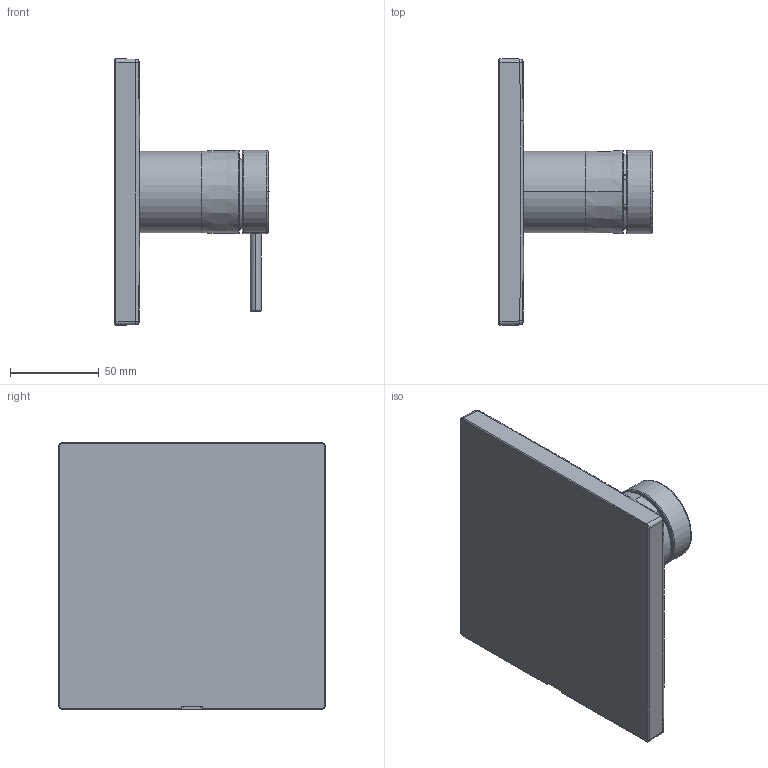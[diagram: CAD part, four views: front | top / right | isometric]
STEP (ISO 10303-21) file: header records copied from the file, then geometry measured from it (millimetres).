
FILE_DESCRIPTION((''),'2;1');
FILE_NAME('21204500','2017-08-29T',('SN986'),(''),'CREO PARAMETRIC BY PTC INC, 2016260','CREO PARAMETRIC BY PTC INC, 2016260','');
FILE_SCHEMA(('CONFIG_CONTROL_DESIGN'));
Length unit declared in the file: millimetre
Products named in the file (1): 21204500
Bounding box: 86.65 x 149.97 x 149.97 mm (x, y, z)
Volume: 427915.3 mm3; surface area: 66924.8 mm2
Topology: 1 solids, 1 shells, 86 faces, 215 edges, 131 vertices
Faces by surface type: cylinder 26, plane 19, torus 15, bspline 10, sphere 6, cone 6, revolution 4
Entity records: 3662 total; most frequent: CARTESIAN_POINT 1672, ORIENTED_EDGE 422, DIRECTION 385, EDGE_CURVE 211, AXIS2_PLACEMENT_3D 159, VERTEX_POINT 131, EDGE_LOOP 92, CIRCLE 87
